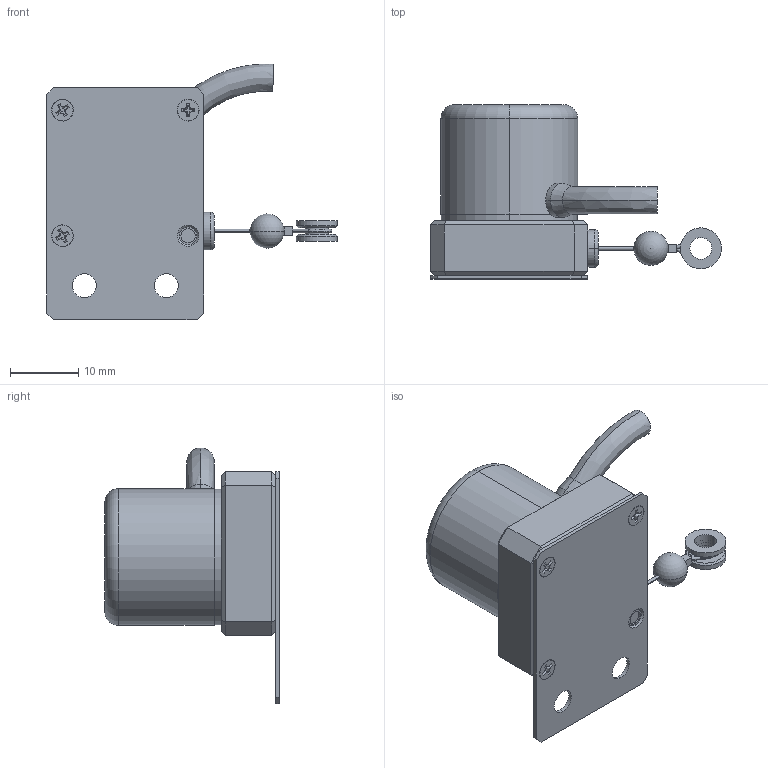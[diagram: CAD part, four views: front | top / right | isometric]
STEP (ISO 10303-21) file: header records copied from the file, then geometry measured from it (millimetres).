
FILE_DESCRIPTION (( 'STEP AP214' ), '1' );
FILE_NAME ('DS-025_DX-025_Assem2.STEP', '2025-01-28T00:56:16', ( '' ), ( '' ), 'SwSTEP 2.0', 'SolidWorks 2023', '' );
FILE_SCHEMA (( 'AUTOMOTIVE_DESIGN' ));
Length unit declared in the file: millimetre
Products named in the file (6): Flat Head SCREW M2 X6 MM; 取付フランジ; DS_DX_Part1; DS_DX_Part2; DS-025_DX-025_Assem2; DS_DX_Part3
Assembly tree (7 placements, depth 2):
  DS-025_DX-025_Assem2
    DS_DX_Part1
    DS_DX_Part2
    DS_DX_Part3
    取付フランジ
    Flat Head SCREW M2 X6 MM  x3
Bounding box: 42.53 x 25.5 x 37.43 mm (x, y, z)
Volume: 10372.3 mm3; surface area: 5161.3 mm2
Topology: 10 solids, 10 shells, 187 faces, 464 edges, 307 vertices
Faces by surface type: plane 79, cylinder 56, cone 26, bspline 14, torus 10, sphere 2
Entity records: 4763 total; most frequent: CARTESIAN_POINT 1006, DIRECTION 795, ORIENTED_EDGE 688, EDGE_CURVE 344, AXIS2_PLACEMENT_3D 306, VERTEX_POINT 221, VECTOR 183, LINE 183
